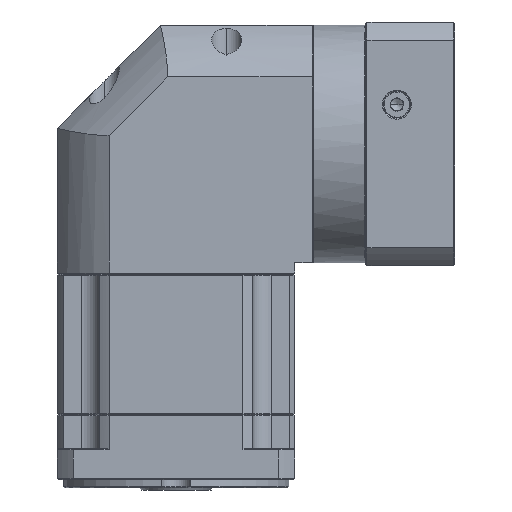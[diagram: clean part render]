
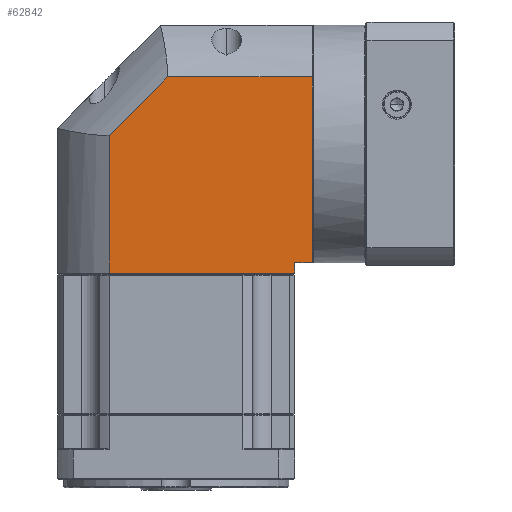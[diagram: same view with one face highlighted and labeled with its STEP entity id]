
A CAD part, front view. The second image highlights one B-rep face of the part: STEP entity #62842.
In plain terms, the highlighted planar face has unit normal (0, -1, 0).
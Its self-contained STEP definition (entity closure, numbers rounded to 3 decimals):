
#407 = LINE ( 'NONE', #31056, #21066 ) ;
#3016 = CARTESIAN_POINT ( 'NONE',  ( -19.964, 28.629, 60.032 ) ) ;
#3693 = VERTEX_POINT ( 'NONE', #103758 ) ;
#6053 = EDGE_CURVE ( 'NONE', #106564, #109581, #22577, .T. ) ;
#7240 = VECTOR ( 'NONE', #120395, 1000. ) ;
#7786 = ORIENTED_EDGE ( 'NONE', *, *, #38996, .F. ) ;
#10053 = LINE ( 'NONE', #50725, #115335 ) ;
#11261 = EDGE_CURVE ( 'NONE', #129594, #71372, #77701, .T. ) ;
#11431 = DIRECTION ( 'NONE',  ( 0., 0., -1. ) ) ;
#12037 = DIRECTION ( 'NONE',  ( 0., 0., -1. ) ) ;
#17022 = CARTESIAN_POINT ( 'NONE',  ( -19.964, 28.629, -29.868 ) ) ;
#18834 = LINE ( 'NONE', #3016, #71408 ) ;
#21066 = VECTOR ( 'NONE', #81469, 1000. ) ;
#21690 = LINE ( 'NONE', #17022, #29671 ) ;
#22577 = LINE ( 'NONE', #56216, #116740 ) ;
#24263 = ORIENTED_EDGE ( 'NONE', *, *, #102385, .F. ) ;
#24793 = CARTESIAN_POINT ( 'NONE',  ( 103.436, 28.629, -29.868 ) ) ;
#25497 = CARTESIAN_POINT ( 'NONE',  ( 5.136, 28.629, -41.368 ) ) ;
#26657 = VECTOR ( 'NONE', #75201, 1000. ) ;
#29671 = VECTOR ( 'NONE', #77262, 1000. ) ;
#31056 = CARTESIAN_POINT ( 'NONE',  ( -19.964, 28.629, -34.868 ) ) ;
#31148 = DIRECTION ( 'NONE',  ( 0., 1., 0. ) ) ;
#36089 = EDGE_CURVE ( 'NONE', #63560, #129594, #61506, .T. ) ;
#38996 = EDGE_CURVE ( 'NONE', #89517, #63560, #407, .T. ) ;
#50725 = CARTESIAN_POINT ( 'NONE',  ( 95.036, 28.629, -41.368 ) ) ;
#53289 = ORIENTED_EDGE ( 'NONE', *, *, #6053, .F. ) ;
#55679 = FACE_OUTER_BOUND ( 'NONE', #64736, .T. ) ;
#56216 = CARTESIAN_POINT ( 'NONE',  ( 103.436, 28.629, -41.368 ) ) ;
#61368 = ORIENTED_EDGE ( 'NONE', *, *, #75776, .F. ) ;
#61506 = LINE ( 'NONE', #25497, #7240 ) ;
#62330 = CARTESIAN_POINT ( 'NONE',  ( 95.036, 28.629, -34.868 ) ) ;
#62842 = ADVANCED_FACE ( 'NONE', ( #55679 ), #124319, .F. ) ;
#63472 = ORIENTED_EDGE ( 'NONE', *, *, #11261, .F. ) ;
#63560 = VERTEX_POINT ( 'NONE', #85956 ) ;
#64736 = EDGE_LOOP ( 'NONE', ( #101367, #61368, #53289, #24263, #63472, #70931, #7786 ) ) ;
#64950 = DIRECTION ( 'NONE',  ( 1., 0., 0. ) ) ;
#70931 = ORIENTED_EDGE ( 'NONE', *, *, #36089, .F. ) ;
#71257 = CARTESIAN_POINT ( 'NONE',  ( 103.436, 28.629, 60.032 ) ) ;
#71372 = VERTEX_POINT ( 'NONE', #111676 ) ;
#71408 = VECTOR ( 'NONE', #64950, 1000. ) ;
#75201 = DIRECTION ( 'NONE',  ( 0.707, 0., 0.707 ) ) ;
#75776 = EDGE_CURVE ( 'NONE', #109581, #3693, #21690, .T. ) ;
#77049 = AXIS2_PLACEMENT_3D ( 'NONE', #82004, #31148, #82431 ) ;
#77262 = DIRECTION ( 'NONE',  ( -1., 0., 0. ) ) ;
#77701 = LINE ( 'NONE', #106842, #26657 ) ;
#81469 = DIRECTION ( 'NONE',  ( -1., 0., 0. ) ) ;
#82004 = CARTESIAN_POINT ( 'NONE',  ( -19.964, 28.629, -41.368 ) ) ;
#82431 = DIRECTION ( 'NONE',  ( 1., 0., 0. ) ) ;
#85956 = CARTESIAN_POINT ( 'NONE',  ( 5.136, 28.629, -34.868 ) ) ;
#89517 = VERTEX_POINT ( 'NONE', #62330 ) ;
#96965 = CARTESIAN_POINT ( 'NONE',  ( 5.136, 28.629, 31.694 ) ) ;
#101367 = ORIENTED_EDGE ( 'NONE', *, *, #113049, .F. ) ;
#102385 = EDGE_CURVE ( 'NONE', #71372, #106564, #18834, .T. ) ;
#103758 = CARTESIAN_POINT ( 'NONE',  ( 95.036, 28.629, -29.868 ) ) ;
#106564 = VERTEX_POINT ( 'NONE', #71257 ) ;
#106842 = CARTESIAN_POINT ( 'NONE',  ( 5.136, 28.629, 31.694 ) ) ;
#109581 = VERTEX_POINT ( 'NONE', #24793 ) ;
#111676 = CARTESIAN_POINT ( 'NONE',  ( 33.474, 28.629, 60.032 ) ) ;
#113049 = EDGE_CURVE ( 'NONE', #3693, #89517, #10053, .T. ) ;
#115335 = VECTOR ( 'NONE', #11431, 1000. ) ;
#116740 = VECTOR ( 'NONE', #12037, 1000. ) ;
#120395 = DIRECTION ( 'NONE',  ( 0., 0., 1. ) ) ;
#124319 = PLANE ( 'NONE',  #77049 ) ;
#129594 = VERTEX_POINT ( 'NONE', #96965 ) ;
